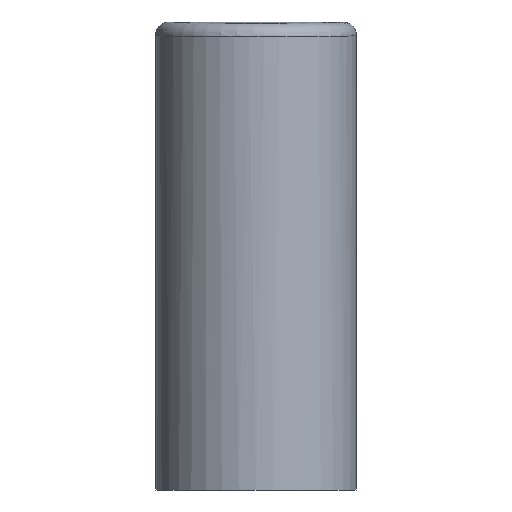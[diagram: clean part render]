
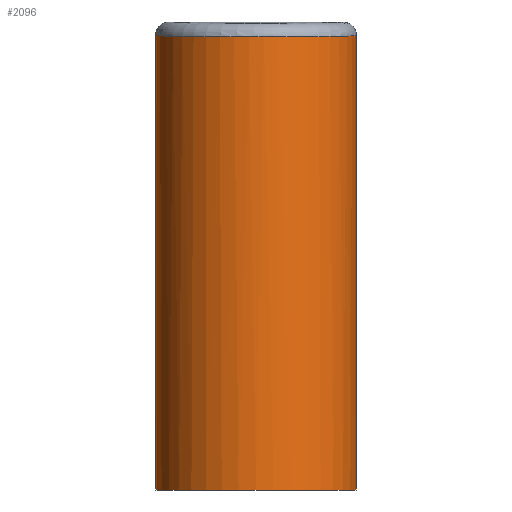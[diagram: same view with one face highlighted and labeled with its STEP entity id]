
A CAD part, front view. The second image highlights one B-rep face of the part: STEP entity #2096.
In plain terms, the highlighted cylindrical face has radius 7.5 mm (diameter 15 mm), a partial arc.
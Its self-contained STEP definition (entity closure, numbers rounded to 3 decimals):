
#26=CARTESIAN_POINT('',(0.,0.,-12.883));
#27=DIRECTION('',(0.,0.,1.));
#28=DIRECTION('',(-1.,0.,0.));
#29=AXIS2_PLACEMENT_3D('',#26,#27,#28);
#46=DIRECTION('',(0.,0.,-1.));
#47=VECTOR('',#46,33.931);
#48=CARTESIAN_POINT('',(7.5,0.,21.048));
#49=LINE('',#48,#47);
#50=DIRECTION('',(0.,0.,1.));
#51=VECTOR('',#50,33.931);
#52=CARTESIAN_POINT('',(-7.5,0.,-12.883));
#53=LINE('',#52,#51);
#54=CARTESIAN_POINT('',(-7.5,0.,21.048));
#55=CARTESIAN_POINT('',(-7.5,-0.387,21.042));
#56=CARTESIAN_POINT('',(-7.44,-1.161,21.03));
#57=CARTESIAN_POINT('',(-7.171,-2.299,21.013));
#58=CARTESIAN_POINT('',(-6.726,-3.385,20.996));
#59=CARTESIAN_POINT('',(-6.127,-4.378,20.981));
#60=CARTESIAN_POINT('',(-5.368,-5.282,20.968));
#61=CARTESIAN_POINT('',(-4.479,-6.054,20.956));
#62=CARTESIAN_POINT('',(-3.482,-6.677,20.947));
#63=CARTESIAN_POINT('',(-2.402,-7.137,20.94));
#64=CARTESIAN_POINT('',(-1.267,-7.423,20.935));
#65=CARTESIAN_POINT('',(-0.103,-7.529,20.934));
#66=CARTESIAN_POINT('',(1.062,-7.455,20.935));
#67=CARTESIAN_POINT('',(2.201,-7.201,20.939));
#68=CARTESIAN_POINT('',(3.286,-6.775,20.945));
#69=CARTESIAN_POINT('',(4.293,-6.186,20.954));
#70=CARTESIAN_POINT('',(5.199,-5.448,20.965));
#71=CARTESIAN_POINT('',(5.982,-4.573,20.978));
#72=CARTESIAN_POINT('',(6.611,-3.605,20.993));
#73=CARTESIAN_POINT('',(7.091,-2.536,21.009));
#74=CARTESIAN_POINT('',(7.398,-1.404,21.026));
#75=CARTESIAN_POINT('',(7.484,-0.627,21.038));
#76=CARTESIAN_POINT('',(7.496,-0.238,21.044));
#78=CARTESIAN_POINT('',(7.496,-0.238,21.044));
#79=CARTESIAN_POINT('',(7.497,-0.211,21.044));
#80=CARTESIAN_POINT('',(7.498,-0.158,21.045));
#81=CARTESIAN_POINT('',(7.5,-0.079,21.046));
#82=CARTESIAN_POINT('',(7.5,-0.026,21.047));
#83=CARTESIAN_POINT('',(7.5,0.,21.048));
#1925=CARTESIAN_POINT('',(-7.5,0.,-12.883));
#1926=CARTESIAN_POINT('',(7.5,0.,-12.883));
#1927=VERTEX_POINT('',#1925);
#1928=VERTEX_POINT('',#1926);
#1933=CARTESIAN_POINT('',(7.5,0.,
21.048));
#1934=VERTEX_POINT('',#1933);
#1935=CARTESIAN_POINT('',(-7.5,0.,
21.048));
#1936=VERTEX_POINT('',#1935);
#1937=VERTEX_POINT('',#78);
#2080=CARTESIAN_POINT('',(0.,0.,-14.598));
#2081=DIRECTION('',(0.,0.,1.));
#2082=DIRECTION('',(1.,0.,0.));
#2083=AXIS2_PLACEMENT_3D('',#2080,#2081,#2082);
#2084=CYLINDRICAL_SURFACE('',#2083,7.5);
#2086=ORIENTED_EDGE('',*,*,#2085,.T.);
#2087=ORIENTED_EDGE('',*,*,#2060,.F.);
#2089=ORIENTED_EDGE('',*,*,#2088,.T.);
#2091=ORIENTED_EDGE('',*,*,#2090,.T.);
#2093=ORIENTED_EDGE('',*,*,#2092,.T.);
#2094=EDGE_LOOP('',(#2086,#2087,#2089,#2091,#2093));
#2095=FACE_OUTER_BOUND('',#2094,.F.);
#2096=ADVANCED_FACE('',(#2095),#2084,.T.);
#30=CIRCLE('',#29,7.5);
#77=B_SPLINE_CURVE_WITH_KNOTS('',3,(#54,#55,#56,#57,#58,#59,#60,#61,#62,#63,#64,
#65,#66,#67,#68,#69,#70,#71,#72,#73,#74,#75,#76),.UNSPECIFIED.,.F.,.F.,(4,1,1,1,
1,1,1,1,1,1,1,1,1,1,1,1,1,1,1,1,4),(0.,0.05,0.1,0.15,0.2,0.25,0.3,
0.35,0.4,0.45,0.5,0.55,0.6,0.65,0.7,0.75,0.8,0.85,0.9,
0.95,1.),.UNSPECIFIED.);
#84=B_SPLINE_CURVE_WITH_KNOTS('',3,(#78,#79,#80,#81,#82,#83),.UNSPECIFIED.,.F.,
.F.,(4,1,1,4),(0.,0.333,0.667,1.),.UNSPECIFIED.);
#2060=EDGE_CURVE('',#1927,#1928,#30,.T.);
#2085=EDGE_CURVE('',#1934,#1928,#49,.T.);
#2088=EDGE_CURVE('',#1927,#1936,#53,.T.);
#2090=EDGE_CURVE('',#1936,#1937,#77,.T.);
#2092=EDGE_CURVE('',#1937,#1934,#84,.T.);
